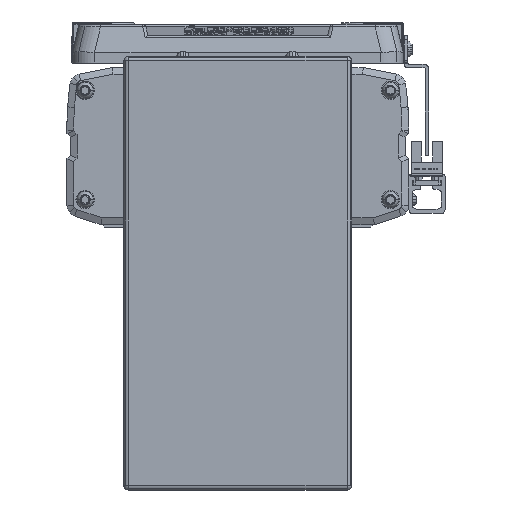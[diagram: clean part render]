
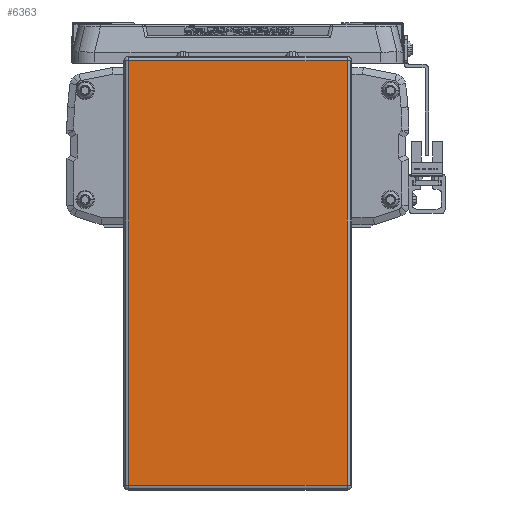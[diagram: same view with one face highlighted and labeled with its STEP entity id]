
A CAD part, left-side view. The second image highlights one B-rep face of the part: STEP entity #6363.
In plain terms, the highlighted planar face has unit normal (-1, 0, 0).
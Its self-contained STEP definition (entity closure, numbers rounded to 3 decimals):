
#6363=ADVANCED_FACE('',(#13577),#13578,.T.);
#13577=FACE_OUTER_BOUND('',#22979,.T.);
#13578=PLANE('',#22980);
#22979=EDGE_LOOP('',(#40798,#40799,#40800,#40801));
#22980=AXIS2_PLACEMENT_3D('',#40802,#40803,#40804);
#40798=ORIENTED_EDGE('',*,*,#53219,.F.);
#40799=ORIENTED_EDGE('',*,*,#56614,.F.);
#40800=ORIENTED_EDGE('',*,*,#56702,.F.);
#40801=ORIENTED_EDGE('',*,*,#54613,.F.);
#40802=CARTESIAN_POINT('',(-45.,0.,-64.2));
#40803=DIRECTION('',(-1.0,0.,0.));
#40804=DIRECTION('',(0.,1.0,0.));
#53219=EDGE_CURVE('',#61096,#64865,#64866,.T.);
#54613=EDGE_CURVE('',#64865,#59592,#66996,.T.);
#56614=EDGE_CURVE('',#69691,#61096,#69693,.T.);
#56702=EDGE_CURVE('',#59592,#69691,#69807,.T.);
#59592=VERTEX_POINT('',#73290);
#61096=VERTEX_POINT('',#75289);
#64865=VERTEX_POINT('',#80728);
#64866=LINE('',#80729,#80730);
#66996=LINE('',#83689,#83690);
#69691=VERTEX_POINT('',#87460);
#69693=LINE('',#87462,#87463);
#69807=LINE('',#87612,#87613);
#73290=CARTESIAN_POINT('',(-45.,-48.,-157.4));
#75289=CARTESIAN_POINT('',(-45.,48.,29.));
#80728=CARTESIAN_POINT('',(-45.,-48.,29.));
#80729=CARTESIAN_POINT('',(-45.,0.,29.));
#80730=VECTOR('',#95810,10.0);
#83689=CARTESIAN_POINT('',(-45.,-48.,-64.2));
#83690=VECTOR('',#97574,10.0);
#87460=CARTESIAN_POINT('',(-45.,48.,-157.4));
#87462=CARTESIAN_POINT('',(-45.,48.,-64.2));
#87463=VECTOR('',#100016,10.0);
#87612=CARTESIAN_POINT('',(-45.,0.,-157.4));
#87613=VECTOR('',#100115,10.0);
#95810=DIRECTION('',(0.0,-1.0,0.));
#97574=DIRECTION('',(0.,0.,-1.0));
#100016=DIRECTION('',(0.,0.,1.0));
#100115=DIRECTION('',(0.0,1.0,0.));
